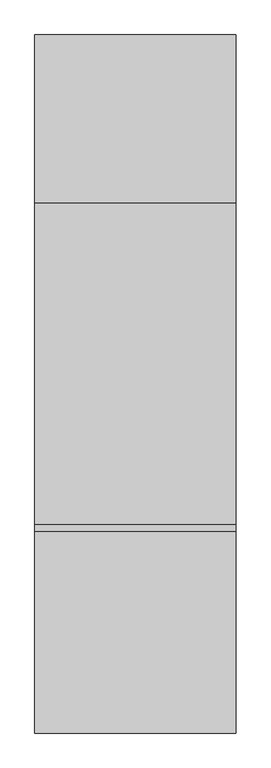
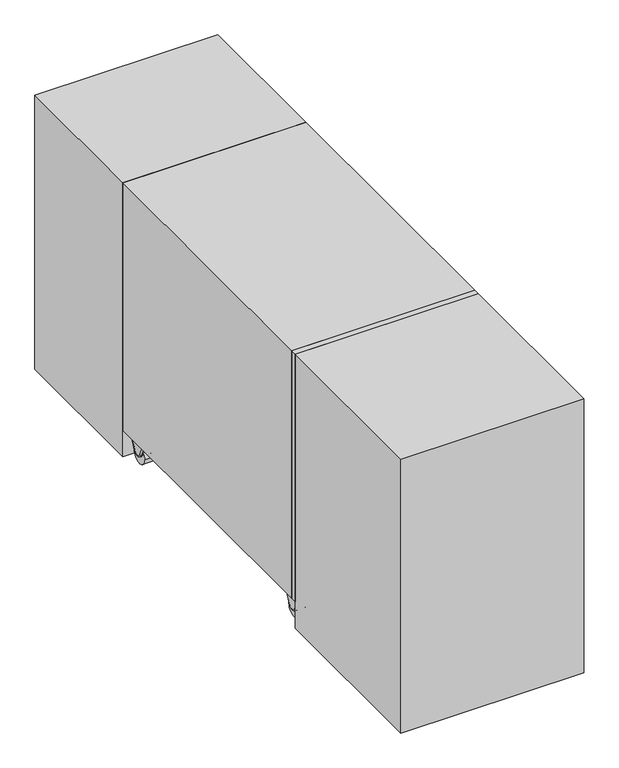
"""IFC4 building model written with IfcOpenShell, lengths in millimetres: proxy geometry, Трехфазный ИБП_ЛЕГИОН_СайберЭлектро : ЛЕГИОН-3Ф-60К."""

from ifc_helpers import new_model, si_unit, point, frame, origin, origin_with_axes, place, context, project, spatial, polyline, circle_curve, ellipse_curve, trimmed, outline, extrude, source, transform, mapped, element, save
from ifc_brep_helpers import plane_surface, cylinder_surface, revolved_surface, advanced_brep


def electrical_equipment_28520774(model_context):
    return source(origin(), model_context, "Body", "SolidModel", [
        advanced_brep(
        [(282.5584286, -22.026834, 73.0926887), (282.5584286, -31.2318826, 87.0), (282.5584286, -68.7681174, 87.0), (282.5584286, -77.973166, 73.0926887), (282.5584286, -63.8075728, 39.7206426), (282.5584286, -36.1924272, 39.7206426), (237.4415714, -31.2318826, 87.0), (237.4415714, -22.026834, 73.0926887), (237.4415714, -36.1924272, 39.7206426), (237.4415714, -63.8075728, 39.7206426), (237.4415714, -77.973166, 73.0926887), (237.4415714, -68.7681174, 87.0), (277.5584286, -31.2318826, 92.0), (242.4415641, -31.2318826, 92.0), (242.4415714, -68.7681174, 92.0), (277.5584286, -68.7681174, 92.0), (242.4415714, -82.5756902, 71.1390331), (277.5584286, -82.5756902, 71.1390331), (275.0, -73.1912444, 49.0306642), (275.0, -68.4100971, 37.7669869), (277.5584286, -68.4100971, 37.7669869), (242.4415714, -68.4100971, 37.7669869), (245.0, -68.4100971, 37.7669869), (245.0, -73.1912444, 49.0306642), (275.0, -31.5899029, 37.7669869), (277.5584286, -31.5899029, 37.7669869), (245.0, -31.5899029, 37.7669869), (242.4415714, -31.5899029, 37.7669869), (275.0, -26.8087556, 49.0306642), (245.0, -26.8087556, 49.0306642), (242.4415714, -17.4243098, 71.1390331), (277.5584286, -17.4243098, 71.1390331), (275.0, -80.0, 30.0), (275.0, -20.0, 30.0), (245.0, -20.0, 30.0), (245.0, -80.0, 30.0)],
        [
            (0, 1, circle_curve(frame((282.5584286, -31.2318826, 77.0), z_axis=(1.0, 0.0, 0.0), x_axis=(0.0, 0.0, 1.0)), 10.0)),
            (1, 2),
            (2, 3, circle_curve(frame((282.5584286, -68.7681174, 77.0), z_axis=(1.0, 0.0, 0.0), x_axis=(0.0, -0.9205048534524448, -0.3907311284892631)), 10.0)),
            (3, 4),
            (4, 5, circle_curve(frame((282.5584286, -50.0, 45.5816095), z_axis=(1.0, 0.0, 0.0), x_axis=(0.0, 0.9205048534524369, -0.3907311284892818)), 15.0)),
            (5, 0),
            (6, 7, circle_curve(frame((237.4415714, -31.2318826, 77.0), z_axis=(-1.0, 0.0, 0.0), x_axis=(0.0, 0.0, 1.0)), 10.0)),
            (7, 8),
            (8, 9, circle_curve(frame((237.4415714, -50.0, 45.5816095), z_axis=(-1.0, 0.0, 0.0), x_axis=(0.0, 0.9205048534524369, -0.3907311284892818)), 15.0)),
            (9, 10),
            (10, 11, circle_curve(frame((237.4415714, -68.7681174, 77.0), z_axis=(-1.0, 0.0, 0.0), x_axis=(0.0, -0.9205048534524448, -0.3907311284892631)), 10.0)),
            (11, 6),
            (12, 13),
            (13, 14),
            (14, 15),
            (15, 12),
            (14, 16, circle_curve(frame((242.4415714, -68.7681174, 77.0), z_axis=(1.0, 0.0, 0.0), x_axis=(0.0, 1.0, 0.0)), 15.0)),
            (16, 17),
            (17, 15, circle_curve(frame((277.5584286, -68.7681174, 77.0), z_axis=(-1.0, 0.0, 0.0), x_axis=(0.0, 1.0, 0.0)), 15.0)),
            (18, 19),
            (19, 20),
            (20, 17),
            (16, 21),
            (21, 22),
            (22, 23),
            (23, 18),
            (19, 24, circle_curve(frame((275.0, -50.0, 45.5816095), z_axis=(1.0, 0.0, 0.0), x_axis=(0.0, 1.0, 0.0)), 20.0)),
            (24, 25),
            (25, 20, circle_curve(frame((277.5584286, -50.0, 45.5816095), z_axis=(-1.0, 0.0, 0.0), x_axis=(0.0, 1.0, 0.0)), 20.0)),
            (26, 22, circle_curve(frame((245.0, -50.0, 45.5816095), z_axis=(-1.0, 0.0, 0.0), x_axis=(0.0, 1.0, 0.0)), 20.0)),
            (21, 27, circle_curve(frame((242.4415714, -50.0, 45.5816095), z_axis=(1.0, 0.0, 0.0), x_axis=(0.0, 1.0, 0.0)), 20.0)),
            (27, 26),
            (24, 28),
            (28, 29),
            (29, 26),
            (27, 30),
            (30, 31),
            (31, 25),
            (12, 31, circle_curve(frame((277.5584286, -31.2318826, 77.0), z_axis=(-1.0, 0.0, 0.0), x_axis=(0.0, 1.0, 0.0)), 15.0)),
            (30, 13, circle_curve(frame((242.4415714, -31.2318826, 77.0), z_axis=(1.0, 0.0, 0.0), x_axis=(0.0, 1.0, 0.0)), 15.0)),
            (32, 33, circle_curve(frame((275.0, -50.0, 30.0), z_axis=(1.0, 0.0, 0.0), x_axis=(0.0, -1.0, 0.0)), 30.0)),
            (33, 28, circle_curve(frame((275.0, -50.0, 30.0), z_axis=(1.0, 0.0, 0.0), x_axis=(0.0, -1.0, 0.0)), 30.0)),
            (18, 32, circle_curve(frame((275.0, -50.0, 30.0), z_axis=(1.0, 0.0, 0.0), x_axis=(0.0, -1.0, 0.0)), 30.0)),
            (34, 35, circle_curve(frame((245.0, -50.0, 30.0), z_axis=(-1.0, 0.0, 0.0), x_axis=(0.0, -1.0, 0.0)), 30.0)),
            (35, 23, circle_curve(frame((245.0, -50.0, 30.0), z_axis=(-1.0, 0.0, 0.0), x_axis=(0.0, -1.0, 0.0)), 30.0)),
            (29, 34, circle_curve(frame((245.0, -50.0, 30.0), z_axis=(-1.0, 0.0, 0.0), x_axis=(0.0, -1.0, 0.0)), 30.0)),
            (33, 34),
            (35, 32),
            (30, 7, circle_curve(frame((242.4415714, -22.026834, 73.0926887), z_axis=(0.0, 0.3907311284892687, 0.9205048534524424), x_axis=(-1.0, 0.0, 0.0)), 5.0)),
            (6, 13, circle_curve(frame((242.4415714, -31.2318826, 87.0), z_axis=(0.0, 1.0, 0.0), x_axis=(-1.0, 0.0, 0.0)), 5.0)),
            (0, 31, circle_curve(frame((277.5584286, -22.026834, 73.0926887), z_axis=(0.0, 0.3907311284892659, 0.9205048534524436), x_axis=(-1.0, 0.0, 0.0)), 5.0)),
            (12, 1, circle_curve(frame((277.5584286, -31.2318826, 87.0), z_axis=(0.0, 1.0, 0.0), x_axis=(-1.0, 0.0, 0.0)), 5.0)),
            (27, 8, circle_curve(frame((242.4415714, -36.1924272, 39.7206426), z_axis=(0.0, 0.3907311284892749, 0.9205048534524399), x_axis=(-1.0, 0.0, 0.0)), 5.0)),
            (5, 25, circle_curve(frame((277.5584286, -36.1924272, 39.7206426), z_axis=(0.0, 0.3907311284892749, 0.9205048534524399), x_axis=(-1.0, 0.0, 0.0)), 5.0)),
            (21, 9, circle_curve(frame((242.4415714, -63.8075728, 39.7206426), z_axis=(0.0, 0.39073112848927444, -0.9205048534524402), x_axis=(-1.0, 0.0, 0.0)), 5.0)),
            (4, 20, circle_curve(frame((277.5584286, -63.8075728, 39.7206426), z_axis=(0.0, 0.39073112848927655, -0.9205048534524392), x_axis=(-1.0, 0.0, 0.0)), 5.0)),
            (16, 10, circle_curve(frame((242.4415714, -77.973166, 73.0926887), z_axis=(0.0, 0.39073112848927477, -0.92050485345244), x_axis=(-1.0, 0.0, 0.0)), 5.0)),
            (3, 17, circle_curve(frame((277.5584286, -77.973166, 73.0926887), z_axis=(0.0, 0.39073112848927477, -0.92050485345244), x_axis=(-1.0, 0.0, 0.0)), 5.0)),
            (14, 11, circle_curve(frame((242.4415714, -68.7681174, 87.0), z_axis=(0.0, -1.0, 0.0), x_axis=(-1.0, 0.0, 0.0)), 5.0)),
            (2, 15, circle_curve(frame((277.5584286, -68.7681174, 87.0), z_axis=(0.0, -1.0, 0.0), x_axis=(-1.0, 0.0, 0.0)), 5.0)),
        ],
        [
            plane_surface(frame((282.5584286, -50.0, 92.0), z_axis=(1.0, 0.0, 0.0), x_axis=(0.0, -1.0, 0.0))),
            plane_surface(frame((237.4415714, -50.0, 92.0), z_axis=(-1.0, 0.0, 0.0), x_axis=(0.0, 1.0, 0.0))),
            plane_surface(frame((282.5584286, -31.2318826, 92.0), z_axis=(0.0, 0.0, 1.0), x_axis=(-1.0, 0.0, 0.0))),
            cylinder_surface(frame((237.4415714, -68.7681174, 77.0), z_axis=(1.0, 0.0, 0.0), x_axis=(0.0, 1.0, 0.0)), 15.0),
            plane_surface(frame((282.5584286, -82.5756902, 71.1390331), z_axis=(0.0, -0.9205048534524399, -0.39073112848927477), x_axis=(-1.0, 0.0, 0.0))),
            cylinder_surface(frame((237.4415714, -50.0, 45.5816095), z_axis=(1.0, 0.0, 0.0), x_axis=(0.0, 1.0, 0.0)), 20.0),
            plane_surface(frame((282.5584286, -31.5899029, 37.7669869), z_axis=(0.0, 0.9205048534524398, -0.3907311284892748), x_axis=(-1.0, 0.0, 0.0))),
            cylinder_surface(frame((237.4415714, -31.2318826, 77.0), z_axis=(1.0, 0.0, 0.0), x_axis=(0.0, 1.0, 0.0)), 15.0),
            plane_surface(frame((275.0, -80.0, 30.0), z_axis=(1.0, 0.0, 0.0), x_axis=(0.0, 0.0, -1.0))),
            plane_surface(frame((245.0, -80.0, 30.0), z_axis=(-1.0, 0.0, 0.0), x_axis=(0.0, 0.0, 1.0))),
            cylinder_surface(frame((245.0, -50.0, 30.0), z_axis=(1.0, 0.0, 0.0), x_axis=(0.0, -1.0, 0.0)), 30.0),
            revolved_surface(trimmed(ellipse_curve(frame((242.4415714, -31.2318826, 87.0), z_axis=(0.0, -1.0, 0.0), x_axis=(-1.0, 0.0, 0.0)), 5.0, 5.0), [point((242.4415714, -31.2318826, 92.0))], [point((237.4415714, -31.2318826, 87.0))], True, "CARTESIAN"), (237.4415714, -31.2318826, 77.0), (-1.0, 0.0, 0.0)),
            revolved_surface(trimmed(ellipse_curve(frame((277.5584286, -31.2318826, 87.0), z_axis=(0.0, -1.0, 0.0), x_axis=(-1.0, 0.0, 0.0)), 5.0, 5.0), [point((282.5584286, -31.2318826, 87.0))], [point((277.5584286, -31.2318826, 92.0))], True, "CARTESIAN"), (237.4415714, -31.2318826, 77.0), (-1.0, 0.0, 0.0)),
            cylinder_surface(frame((242.4415714, -22.026834, 73.0926887), z_axis=(0.0, -0.3907311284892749, -0.9205048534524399), x_axis=(-1.0, 0.0, 0.0)), 5.0),
            cylinder_surface(frame((277.5584286, -22.026834, 73.0926887), z_axis=(0.0, -0.3907311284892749, -0.9205048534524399), x_axis=(-1.0, 0.0, 0.0)), 5.0),
            revolved_surface(trimmed(ellipse_curve(frame((242.4415714, -36.1924272, 39.7206426), z_axis=(0.0, 0.39073112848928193, 0.9205048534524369), x_axis=(-1.0, 0.0, 0.0)), 5.0, 5.0), [point((242.4415714, -31.5899029, 37.7669869))], [point((237.4415714, -36.1924272, 39.7206426))], True, "CARTESIAN"), (237.4415714, -50.0, 45.5816095), (-1.0, 0.0, 0.0)),
            revolved_surface(trimmed(ellipse_curve(frame((277.5584286, -36.1924272, 39.7206426), z_axis=(0.0, 0.39073112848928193, 0.9205048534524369), x_axis=(-1.0, 0.0, 0.0)), 5.0, 5.0), [point((282.5584286, -36.1924272, 39.7206426))], [point((277.5584286, -31.5899029, 37.7669869))], True, "CARTESIAN"), (237.4415714, -50.0, 45.5816095), (-1.0, 0.0, 0.0)),
            cylinder_surface(frame((242.4415714, -63.8075728, 39.7206426), z_axis=(0.0, -0.39073112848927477, 0.92050485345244), x_axis=(-1.0, 0.0, 0.0)), 5.0),
            cylinder_surface(frame((277.5584286, -63.8075728, 39.7206426), z_axis=(0.0, -0.39073112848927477, 0.92050485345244), x_axis=(-1.0, 0.0, 0.0)), 5.0),
            revolved_surface(trimmed(ellipse_curve(frame((242.4415714, -77.973166, 73.0926887), z_axis=(0.0, 0.39073112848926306, -0.9205048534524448), x_axis=(-1.0, 0.0, 0.0)), 5.0, 5.0), [point((242.4415714, -82.5756902, 71.1390331))], [point((237.4415714, -77.973166, 73.0926887))], True, "CARTESIAN"), (237.4415714, -68.7681174, 77.0), (-1.0, 0.0, 0.0)),
            revolved_surface(trimmed(ellipse_curve(frame((277.5584286, -77.973166, 73.0926887), z_axis=(0.0, 0.39073112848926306, -0.9205048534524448), x_axis=(-1.0, 0.0, 0.0)), 5.0, 5.0), [point((282.5584286, -77.973166, 73.0926887))], [point((277.5584286, -82.5756902, 71.1390331))], True, "CARTESIAN"), (237.4415714, -68.7681174, 77.0), (-1.0, 0.0, 0.0)),
            cylinder_surface(frame((242.4415714, -68.7681174, 87.0), z_axis=(0.0, 1.0, 0.0), x_axis=(-1.0, 0.0, 0.0)), 5.0),
            cylinder_surface(frame((277.5584286, -68.7681174, 87.0), z_axis=(0.0, 1.0, 0.0), x_axis=(-1.0, 0.0, 0.0)), 5.0),
        ],
        [
            (0, [[1, 2, 3, 4, 5, 6]]),
            (1, [[7, 8, 9, 10, 11, 12]]),
            (2, [[13, 14, 15, 16]]),
            (3, [[-15, 17, 18, 19]]),
            (4, [[20, 21, 22, -18, 23, 24, 25, 26]]),
            (5, [[27, 28, 29, -21]]),
            (5, [[30, -24, 31, 32]]),
            (6, [[33, 34, 35, -32, 36, 37, 38, -28]]),
            (7, [[-13, 39, -37, 40]]),
            (8, [[41, 42, -33, -27, -20, 43]]),
            (9, [[44, 45, -25, -30, -35, 46]]),
            (10, [[47, -46, -34, -42]]),
            (10, [[48, -43, -26, -45]]),
            (10, [[-41, -48, -44, -47]]),
            (11, [[49, -7, 50, -40]]),
            (12, [[51, -39, 52, -1]]),
            (13, [[-49, -36, 53, -8]]),
            (14, [[-51, -6, 54, -38]]),
            (15, [[-53, -31, 55, -9]]),
            (16, [[-54, -5, 56, -29]]),
            (17, [[-55, -23, 57, -10]]),
            (18, [[-56, -4, 58, -22]]),
            (19, [[-57, -17, 59, -11]]),
            (20, [[-58, -3, 60, -19]]),
            (21, [[-50, -12, -59, -14]]),
            (22, [[-52, -16, -60, -2]]),
        ],
    ),
        advanced_brep(
        [(-237.4415714, -22.026834, 73.0926887), (-237.4415714, -31.2318826, 87.0), (-237.4415714, -68.7681174, 87.0), (-237.4415714, -77.973166, 73.0926887), (-237.4415714, -63.8075728, 39.7206426), (-237.4415714, -36.1924272, 39.7206426), (-282.5584286, -31.2318826, 87.0), (-282.5584286, -22.026834, 73.0926887), (-282.5584286, -36.1924272, 39.7206426), (-282.5584286, -63.8075728, 39.7206426), (-282.5584286, -77.973166, 73.0926887), (-282.5584286, -68.7681174, 87.0), (-242.4415714, -31.2318826, 92.0), (-277.5584359, -31.2318826, 92.0), (-277.5584286, -68.7681174, 92.0), (-242.4415714, -68.7681174, 92.0), (-277.5584286, -82.5756902, 71.1390331), (-242.4415714, -82.5756902, 71.1390331), (-245.0, -73.1912444, 49.0306642), (-245.0, -68.4100971, 37.7669869), (-242.4415714, -68.4100971, 37.7669869), (-277.5584286, -68.4100971, 37.7669869), (-275.0, -68.4100971, 37.7669869), (-275.0, -73.1912444, 49.0306642), (-245.0, -31.5899029, 37.7669869), (-242.4415714, -31.5899029, 37.7669869), (-275.0, -31.5899029, 37.7669869), (-277.5584286, -31.5899029, 37.7669869), (-245.0, -26.8087556, 49.0306642), (-275.0, -26.8087556, 49.0306642), (-277.5584286, -17.4243098, 71.1390331), (-242.4415714, -17.4243098, 71.1390331), (-245.0, -80.0, 30.0), (-245.0, -20.0, 30.0), (-275.0, -20.0, 30.0), (-275.0, -80.0, 30.0)],
        [
            (0, 1, circle_curve(frame((-237.4415714, -31.2318826, 77.0), z_axis=(1.0, 0.0, 0.0), x_axis=(0.0, 0.0, 1.0)), 10.0)),
            (1, 2),
            (2, 3, circle_curve(frame((-237.4415714, -68.7681174, 77.0), z_axis=(1.0, 0.0, 0.0), x_axis=(0.0, -0.9205048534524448, -0.3907311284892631)), 10.0)),
            (3, 4),
            (4, 5, circle_curve(frame((-237.4415714, -50.0, 45.5816095), z_axis=(1.0, 0.0, 0.0), x_axis=(0.0, 0.9205048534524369, -0.3907311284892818)), 15.0)),
            (5, 0),
            (6, 7, circle_curve(frame((-282.5584286, -31.2318826, 77.0), z_axis=(-1.0, 0.0, 0.0), x_axis=(0.0, 0.0, 1.0)), 10.0)),
            (7, 8),
            (8, 9, circle_curve(frame((-282.5584286, -50.0, 45.5816095), z_axis=(-1.0, 0.0, 0.0), x_axis=(0.0, 0.9205048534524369, -0.3907311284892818)), 15.0)),
            (9, 10),
            (10, 11, circle_curve(frame((-282.5584286, -68.7681174, 77.0), z_axis=(-1.0, 0.0, 0.0), x_axis=(0.0, -0.9205048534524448, -0.3907311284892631)), 10.0)),
            (11, 6),
            (12, 13),
            (13, 14),
            (14, 15),
            (15, 12),
            (14, 16, circle_curve(frame((-277.5584286, -68.7681174, 77.0), z_axis=(1.0, 0.0, 0.0), x_axis=(0.0, 1.0, 0.0)), 15.0)),
            (16, 17),
            (17, 15, circle_curve(frame((-242.4415714, -68.7681174, 77.0), z_axis=(-1.0, 0.0, 0.0), x_axis=(0.0, 1.0, 0.0)), 15.0)),
            (18, 19),
            (19, 20),
            (20, 17),
            (16, 21),
            (21, 22),
            (22, 23),
            (23, 18),
            (19, 24, circle_curve(frame((-245.0, -50.0, 45.5816095), z_axis=(1.0, 0.0, 0.0), x_axis=(0.0, 1.0, 0.0)), 20.0)),
            (24, 25),
            (25, 20, circle_curve(frame((-242.4415714, -50.0, 45.5816095), z_axis=(-1.0, 0.0, 0.0), x_axis=(0.0, 1.0, 0.0)), 20.0)),
            (26, 22, circle_curve(frame((-275.0, -50.0, 45.5816095), z_axis=(-1.0, 0.0, 0.0), x_axis=(0.0, 1.0, 0.0)), 20.0)),
            (21, 27, circle_curve(frame((-277.5584286, -50.0, 45.5816095), z_axis=(1.0, 0.0, 0.0), x_axis=(0.0, 1.0, 0.0)), 20.0)),
            (27, 26),
            (24, 28),
            (28, 29),
            (29, 26),
            (27, 30),
            (30, 31),
            (31, 25),
            (12, 31, circle_curve(frame((-242.4415714, -31.2318826, 77.0), z_axis=(-1.0, 0.0, 0.0), x_axis=(0.0, 1.0, 0.0)), 15.0)),
            (30, 13, circle_curve(frame((-277.5584286, -31.2318826, 77.0), z_axis=(1.0, 0.0, 0.0), x_axis=(0.0, 1.0, 0.0)), 15.0)),
            (32, 33, circle_curve(frame((-245.0, -50.0, 30.0), z_axis=(1.0, 0.0, 0.0), x_axis=(0.0, -1.0, 0.0)), 30.0)),
            (33, 28, circle_curve(frame((-245.0, -50.0, 30.0), z_axis=(1.0, 0.0, 0.0), x_axis=(0.0, -1.0, 0.0)), 30.0)),
            (18, 32, circle_curve(frame((-245.0, -50.0, 30.0), z_axis=(1.0, 0.0, 0.0), x_axis=(0.0, -1.0, 0.0)), 30.0)),
            (34, 35, circle_curve(frame((-275.0, -50.0, 30.0), z_axis=(-1.0, 0.0, 0.0), x_axis=(0.0, -1.0, 0.0)), 30.0)),
            (35, 23, circle_curve(frame((-275.0, -50.0, 30.0), z_axis=(-1.0, 0.0, 0.0), x_axis=(0.0, -1.0, 0.0)), 30.0)),
            (29, 34, circle_curve(frame((-275.0, -50.0, 30.0), z_axis=(-1.0, 0.0, 0.0), x_axis=(0.0, -1.0, 0.0)), 30.0)),
            (33, 34),
            (35, 32),
            (30, 7, circle_curve(frame((-277.5584286, -22.026834, 73.0926887), z_axis=(0.0, 0.3907311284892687, 0.9205048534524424), x_axis=(-1.0, 0.0, 0.0)), 5.0)),
            (6, 13, circle_curve(frame((-277.5584286, -31.2318826, 87.0), z_axis=(0.0, 1.0, 0.0), x_axis=(-1.0, 0.0, 0.0)), 5.0)),
            (0, 31, circle_curve(frame((-242.4415714, -22.026834, 73.0926887), z_axis=(0.0, 0.3907311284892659, 0.9205048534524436), x_axis=(-1.0, 0.0, 0.0)), 5.0)),
            (12, 1, circle_curve(frame((-242.4415714, -31.2318826, 87.0), z_axis=(0.0, 1.0, 0.0), x_axis=(-1.0, 0.0, 0.0)), 5.0)),
            (27, 8, circle_curve(frame((-277.5584286, -36.1924272, 39.7206426), z_axis=(0.0, 0.3907311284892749, 0.9205048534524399), x_axis=(-1.0, 0.0, 0.0)), 5.0)),
            (5, 25, circle_curve(frame((-242.4415714, -36.1924272, 39.7206426), z_axis=(0.0, 0.3907311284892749, 0.9205048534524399), x_axis=(-1.0, 0.0, 0.0)), 5.0)),
            (21, 9, circle_curve(frame((-277.5584286, -63.8075728, 39.7206426), z_axis=(0.0, 0.39073112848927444, -0.9205048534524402), x_axis=(-1.0, 0.0, 0.0)), 5.0)),
            (4, 20, circle_curve(frame((-242.4415714, -63.8075728, 39.7206426), z_axis=(0.0, 0.39073112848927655, -0.9205048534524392), x_axis=(-1.0, 0.0, 0.0)), 5.0)),
            (16, 10, circle_curve(frame((-277.5584286, -77.973166, 73.0926887), z_axis=(0.0, 0.39073112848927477, -0.92050485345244), x_axis=(-1.0, 0.0, 0.0)), 5.0)),
            (3, 17, circle_curve(frame((-242.4415714, -77.973166, 73.0926887), z_axis=(0.0, 0.39073112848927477, -0.92050485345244), x_axis=(-1.0, 0.0, 0.0)), 5.0)),
            (14, 11, circle_curve(frame((-277.5584286, -68.7681174, 87.0), z_axis=(0.0, -1.0, 0.0), x_axis=(-1.0, 0.0, 0.0)), 5.0)),
            (2, 15, circle_curve(frame((-242.4415714, -68.7681174, 87.0), z_axis=(0.0, -1.0, 0.0), x_axis=(-1.0, 0.0, 0.0)), 5.0)),
        ],
        [
            plane_surface(frame((-237.4415714, -50.0, 92.0), z_axis=(1.0, 0.0, 0.0), x_axis=(0.0, -1.0, 0.0))),
            plane_surface(frame((-282.5584286, -50.0, 92.0), z_axis=(-1.0, 0.0, 0.0), x_axis=(0.0, 1.0, 0.0))),
            plane_surface(frame((-237.4415714, -31.2318826, 92.0), z_axis=(0.0, 0.0, 1.0), x_axis=(-1.0, 0.0, 0.0))),
            cylinder_surface(frame((-282.5584286, -68.7681174, 77.0), z_axis=(1.0, 0.0, 0.0), x_axis=(0.0, 1.0, 0.0)), 15.0),
            plane_surface(frame((-237.4415714, -82.5756902, 71.1390331), z_axis=(0.0, -0.9205048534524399, -0.39073112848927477), x_axis=(-1.0, 0.0, 0.0))),
            cylinder_surface(frame((-282.5584286, -50.0, 45.5816095), z_axis=(1.0, 0.0, 0.0), x_axis=(0.0, 1.0, 0.0)), 20.0),
            plane_surface(frame((-237.4415714, -31.5899029, 37.7669869), z_axis=(0.0, 0.9205048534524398, -0.3907311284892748), x_axis=(-1.0, 0.0, 0.0))),
            cylinder_surface(frame((-282.5584286, -31.2318826, 77.0), z_axis=(1.0, 0.0, 0.0), x_axis=(0.0, 1.0, 0.0)), 15.0),
            plane_surface(frame((-245.0, -80.0, 30.0), z_axis=(1.0, 0.0, 0.0), x_axis=(0.0, 0.0, -1.0))),
            plane_surface(frame((-275.0, -80.0, 30.0), z_axis=(-1.0, 0.0, 0.0), x_axis=(0.0, 0.0, 1.0))),
            cylinder_surface(frame((-275.0, -50.0, 30.0), z_axis=(1.0, 0.0, 0.0), x_axis=(0.0, -1.0, 0.0)), 30.0),
            revolved_surface(trimmed(ellipse_curve(frame((-277.5584286, -31.2318826, 87.0), z_axis=(0.0, -1.0, 0.0), x_axis=(-1.0, 0.0, 0.0)), 5.0, 5.0), [point((-277.5584286, -31.2318826, 92.0))], [point((-282.5584286, -31.2318826, 87.0))], True, "CARTESIAN"), (-282.5584286, -31.2318826, 77.0), (-1.0, 0.0, 0.0)),
            revolved_surface(trimmed(ellipse_curve(frame((-242.4415714, -31.2318826, 87.0), z_axis=(0.0, -1.0, 0.0), x_axis=(-1.0, 0.0, 0.0)), 5.0, 5.0), [point((-237.4415714, -31.2318826, 87.0))], [point((-242.4415714, -31.2318826, 92.0))], True, "CARTESIAN"), (-282.5584286, -31.2318826, 77.0), (-1.0, 0.0, 0.0)),
            cylinder_surface(frame((-277.5584286, -22.026834, 73.0926887), z_axis=(0.0, -0.3907311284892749, -0.9205048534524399), x_axis=(-1.0, 0.0, 0.0)), 5.0),
            cylinder_surface(frame((-242.4415714, -22.026834, 73.0926887), z_axis=(0.0, -0.3907311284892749, -0.9205048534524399), x_axis=(-1.0, 0.0, 0.0)), 5.0),
            revolved_surface(trimmed(ellipse_curve(frame((-277.5584286, -36.1924272, 39.7206426), z_axis=(0.0, 0.39073112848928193, 0.9205048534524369), x_axis=(-1.0, 0.0, 0.0)), 5.0, 5.0), [point((-277.5584286, -31.5899029, 37.7669869))], [point((-282.5584286, -36.1924272, 39.7206426))], True, "CARTESIAN"), (-282.5584286, -50.0, 45.5816095), (-1.0, 0.0, 0.0)),
            revolved_surface(trimmed(ellipse_curve(frame((-242.4415714, -36.1924272, 39.7206426), z_axis=(0.0, 0.39073112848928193, 0.9205048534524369), x_axis=(-1.0, 0.0, 0.0)), 5.0, 5.0), [point((-237.4415714, -36.1924272, 39.7206426))], [point((-242.4415714, -31.5899029, 37.7669869))], True, "CARTESIAN"), (-282.5584286, -50.0, 45.5816095), (-1.0, 0.0, 0.0)),
            cylinder_surface(frame((-277.5584286, -63.8075728, 39.7206426), z_axis=(0.0, -0.39073112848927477, 0.92050485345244), x_axis=(-1.0, 0.0, 0.0)), 5.0),
            cylinder_surface(frame((-242.4415714, -63.8075728, 39.7206426), z_axis=(0.0, -0.39073112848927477, 0.92050485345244), x_axis=(-1.0, 0.0, 0.0)), 5.0),
            revolved_surface(trimmed(ellipse_curve(frame((-277.5584286, -77.973166, 73.0926887), z_axis=(0.0, 0.39073112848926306, -0.9205048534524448), x_axis=(-1.0, 0.0, 0.0)), 5.0, 5.0), [point((-277.5584286, -82.5756902, 71.1390331))], [point((-282.5584286, -77.973166, 73.0926887))], True, "CARTESIAN"), (-282.5584286, -68.7681174, 77.0), (-1.0, 0.0, 0.0)),
            revolved_surface(trimmed(ellipse_curve(frame((-242.4415714, -77.973166, 73.0926887), z_axis=(0.0, 0.39073112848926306, -0.9205048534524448), x_axis=(-1.0, 0.0, 0.0)), 5.0, 5.0), [point((-237.4415714, -77.973166, 73.0926887))], [point((-242.4415714, -82.5756902, 71.1390331))], True, "CARTESIAN"), (-282.5584286, -68.7681174, 77.0), (-1.0, 0.0, 0.0)),
            cylinder_surface(frame((-277.5584286, -68.7681174, 87.0), z_axis=(0.0, 1.0, 0.0), x_axis=(-1.0, 0.0, 0.0)), 5.0),
            cylinder_surface(frame((-242.4415714, -68.7681174, 87.0), z_axis=(0.0, 1.0, 0.0), x_axis=(-1.0, 0.0, 0.0)), 5.0),
        ],
        [
            (0, [[1, 2, 3, 4, 5, 6]]),
            (1, [[7, 8, 9, 10, 11, 12]]),
            (2, [[13, 14, 15, 16]]),
            (3, [[-15, 17, 18, 19]]),
            (4, [[20, 21, 22, -18, 23, 24, 25, 26]]),
            (5, [[27, 28, 29, -21]]),
            (5, [[30, -24, 31, 32]]),
            (6, [[33, 34, 35, -32, 36, 37, 38, -28]]),
            (7, [[-13, 39, -37, 40]]),
            (8, [[41, 42, -33, -27, -20, 43]]),
            (9, [[44, 45, -25, -30, -35, 46]]),
            (10, [[47, -46, -34, -42]]),
            (10, [[48, -43, -26, -45]]),
            (10, [[-41, -48, -44, -47]]),
            (11, [[49, -7, 50, -40]]),
            (12, [[51, -39, 52, -1]]),
            (13, [[-49, -36, 53, -8]]),
            (14, [[-51, -6, 54, -38]]),
            (15, [[-53, -31, 55, -9]]),
            (16, [[-54, -5, 56, -29]]),
            (17, [[-55, -23, 57, -10]]),
            (18, [[-56, -4, 58, -22]]),
            (19, [[-57, -17, 59, -11]]),
            (20, [[-58, -3, 60, -19]]),
            (21, [[-50, -12, -59, -14]]),
            (22, [[-52, -16, -60, -2]]),
        ],
    ),
        advanced_brep(
        [(282.5584286, -902.026834, 73.0926887), (282.5584286, -911.2318826, 87.0), (282.5584286, -948.7681174, 87.0), (282.5584286, -957.973166, 73.0926887), (282.5584286, -943.8075728, 39.7206426), (282.5584286, -916.1924272, 39.7206426), (237.4415714, -911.2318826, 87.0), (237.4415714, -902.026834, 73.0926887), (237.4415714, -916.1924272, 39.7206426), (237.4415714, -943.8075728, 39.7206426), (237.4415714, -957.973166, 73.0926887), (237.4415714, -948.7681174, 87.0), (277.5584286, -911.2318826, 92.0), (242.4415641, -911.2318826, 92.0), (242.4415714, -948.7681174, 92.0), (277.5584286, -948.7681174, 92.0), (242.4415714, -962.5756902, 71.1390331), (277.5584286, -962.5756902, 71.1390331), (275.0, -953.1912444, 49.0306642), (275.0, -948.4100971, 37.7669869), (277.5584286, -948.4100971, 37.7669869), (242.4415714, -948.4100971, 37.7669869), (245.0, -948.4100971, 37.7669869), (245.0, -953.1912444, 49.0306642), (275.0, -911.5899029, 37.7669869), (277.5584286, -911.5899029, 37.7669869), (245.0, -911.5899029, 37.7669869), (242.4415714, -911.5899029, 37.7669869), (275.0, -906.8087556, 49.0306642), (245.0, -906.8087556, 49.0306642), (242.4415714, -897.4243098, 71.1390331), (277.5584286, -897.4243098, 71.1390331), (275.0, -960.0, 30.0), (275.0, -900.0, 30.0), (245.0, -900.0, 30.0), (245.0, -960.0, 30.0)],
        [
            (0, 1, circle_curve(frame((282.5584286, -911.2318826, 77.0), z_axis=(1.0, 0.0, 0.0), x_axis=(0.0, 0.0, 1.0)), 10.0)),
            (1, 2),
            (2, 3, circle_curve(frame((282.5584286, -948.7681174, 77.0), z_axis=(1.0, 0.0, 0.0), x_axis=(0.0, -0.9205048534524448, -0.3907311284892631)), 10.0)),
            (3, 4),
            (4, 5, circle_curve(frame((282.5584286, -930.0, 45.5816095), z_axis=(1.0, 0.0, 0.0), x_axis=(0.0, 0.9205048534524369, -0.3907311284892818)), 15.0)),
            (5, 0),
            (6, 7, circle_curve(frame((237.4415714, -911.2318826, 77.0), z_axis=(-1.0, 0.0, 0.0), x_axis=(0.0, 0.0, 1.0)), 10.0)),
            (7, 8),
            (8, 9, circle_curve(frame((237.4415714, -930.0, 45.5816095), z_axis=(-1.0, 0.0, 0.0), x_axis=(0.0, 0.9205048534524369, -0.3907311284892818)), 15.0)),
            (9, 10),
            (10, 11, circle_curve(frame((237.4415714, -948.7681174, 77.0), z_axis=(-1.0, 0.0, 0.0), x_axis=(0.0, -0.9205048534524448, -0.3907311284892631)), 10.0)),
            (11, 6),
            (12, 13),
            (13, 14),
            (14, 15),
            (15, 12),
            (14, 16, circle_curve(frame((242.4415714, -948.7681174, 77.0), z_axis=(1.0, 0.0, 0.0), x_axis=(0.0, 1.0, 0.0)), 15.0)),
            (16, 17),
            (17, 15, circle_curve(frame((277.5584286, -948.7681174, 77.0), z_axis=(-1.0, 0.0, 0.0), x_axis=(0.0, 1.0, 0.0)), 15.0)),
            (18, 19),
            (19, 20),
            (20, 17),
            (16, 21),
            (21, 22),
            (22, 23),
            (23, 18),
            (19, 24, circle_curve(frame((275.0, -930.0, 45.5816095), z_axis=(1.0, 0.0, 0.0), x_axis=(0.0, 1.0, 0.0)), 20.0)),
            (24, 25),
            (25, 20, circle_curve(frame((277.5584286, -930.0, 45.5816095), z_axis=(-1.0, 0.0, 0.0), x_axis=(0.0, 1.0, 0.0)), 20.0)),
            (26, 22, circle_curve(frame((245.0, -930.0, 45.5816095), z_axis=(-1.0, 0.0, 0.0), x_axis=(0.0, 1.0, 0.0)), 20.0)),
            (21, 27, circle_curve(frame((242.4415714, -930.0, 45.5816095), z_axis=(1.0, 0.0, 0.0), x_axis=(0.0, 1.0, 0.0)), 20.0)),
            (27, 26),
            (24, 28),
            (28, 29),
            (29, 26),
            (27, 30),
            (30, 31),
            (31, 25),
            (12, 31, circle_curve(frame((277.5584286, -911.2318826, 77.0), z_axis=(-1.0, 0.0, 0.0), x_axis=(0.0, 1.0, 0.0)), 15.0)),
            (30, 13, circle_curve(frame((242.4415714, -911.2318826, 77.0), z_axis=(1.0, 0.0, 0.0), x_axis=(0.0, 1.0, 0.0)), 15.0)),
            (32, 33, circle_curve(frame((275.0, -930.0, 30.0), z_axis=(1.0, 0.0, 0.0), x_axis=(0.0, -1.0, 0.0)), 30.0)),
            (33, 28, circle_curve(frame((275.0, -930.0, 30.0), z_axis=(1.0, 0.0, 0.0), x_axis=(0.0, -1.0, 0.0)), 30.0)),
            (18, 32, circle_curve(frame((275.0, -930.0, 30.0), z_axis=(1.0, 0.0, 0.0), x_axis=(0.0, -1.0, 0.0)), 30.0)),
            (34, 35, circle_curve(frame((245.0, -930.0, 30.0), z_axis=(-1.0, 0.0, 0.0), x_axis=(0.0, -1.0, 0.0)), 30.0)),
            (35, 23, circle_curve(frame((245.0, -930.0, 30.0), z_axis=(-1.0, 0.0, 0.0), x_axis=(0.0, -1.0, 0.0)), 30.0)),
            (29, 34, circle_curve(frame((245.0, -930.0, 30.0), z_axis=(-1.0, 0.0, 0.0), x_axis=(0.0, -1.0, 0.0)), 30.0)),
            (33, 34),
            (35, 32),
            (30, 7, circle_curve(frame((242.4415714, -902.026834, 73.0926887), z_axis=(0.0, 0.3907311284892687, 0.9205048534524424), x_axis=(-1.0, 0.0, 0.0)), 5.0)),
            (6, 13, circle_curve(frame((242.4415714, -911.2318826, 87.0), z_axis=(0.0, 1.0, 0.0), x_axis=(-1.0, 0.0, 0.0)), 5.0)),
            (0, 31, circle_curve(frame((277.5584286, -902.026834, 73.0926887), z_axis=(0.0, 0.3907311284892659, 0.9205048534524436), x_axis=(-1.0, 0.0, 0.0)), 5.0)),
            (12, 1, circle_curve(frame((277.5584286, -911.2318826, 87.0), z_axis=(0.0, 1.0, 0.0), x_axis=(-1.0, 0.0, 0.0)), 5.0)),
            (27, 8, circle_curve(frame((242.4415714, -916.1924272, 39.7206426), z_axis=(0.0, 0.3907311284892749, 0.9205048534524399), x_axis=(-1.0, 0.0, 0.0)), 5.0)),
            (5, 25, circle_curve(frame((277.5584286, -916.1924272, 39.7206426), z_axis=(0.0, 0.3907311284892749, 0.9205048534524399), x_axis=(-1.0, 0.0, 0.0)), 5.0)),
            (21, 9, circle_curve(frame((242.4415714, -943.8075728, 39.7206426), z_axis=(0.0, 0.39073112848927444, -0.9205048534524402), x_axis=(-1.0, 0.0, 0.0)), 5.0)),
            (4, 20, circle_curve(frame((277.5584286, -943.8075728, 39.7206426), z_axis=(0.0, 0.39073112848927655, -0.9205048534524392), x_axis=(-1.0, 0.0, 0.0)), 5.0)),
            (16, 10, circle_curve(frame((242.4415714, -957.973166, 73.0926887), z_axis=(0.0, 0.39073112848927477, -0.92050485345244), x_axis=(-1.0, 0.0, 0.0)), 5.0)),
            (3, 17, circle_curve(frame((277.5584286, -957.973166, 73.0926887), z_axis=(0.0, 0.39073112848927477, -0.92050485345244), x_axis=(-1.0, 0.0, 0.0)), 5.0)),
            (14, 11, circle_curve(frame((242.4415714, -948.7681174, 87.0), z_axis=(0.0, -1.0, 0.0), x_axis=(-1.0, 0.0, 0.0)), 5.0)),
            (2, 15, circle_curve(frame((277.5584286, -948.7681174, 87.0), z_axis=(0.0, -1.0, 0.0), x_axis=(-1.0, 0.0, 0.0)), 5.0)),
        ],
        [
            plane_surface(frame((282.5584286, -930.0, 92.0), z_axis=(1.0, 0.0, 0.0), x_axis=(0.0, -1.0, 0.0))),
            plane_surface(frame((237.4415714, -930.0, 92.0), z_axis=(-1.0, 0.0, 0.0), x_axis=(0.0, 1.0, 0.0))),
            plane_surface(frame((282.5584286, -911.2318826, 92.0), z_axis=(0.0, 0.0, 1.0), x_axis=(-1.0, 0.0, 0.0))),
            cylinder_surface(frame((237.4415714, -948.7681174, 77.0), z_axis=(1.0, 0.0, 0.0), x_axis=(0.0, 1.0, 0.0)), 15.0),
            plane_surface(frame((282.5584286, -962.5756902, 71.1390331), z_axis=(0.0, -0.9205048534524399, -0.39073112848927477), x_axis=(-1.0, 0.0, 0.0))),
            cylinder_surface(frame((237.4415714, -930.0, 45.5816095), z_axis=(1.0, 0.0, 0.0), x_axis=(0.0, 1.0, 0.0)), 20.0),
            plane_surface(frame((282.5584286, -911.5899029, 37.7669869), z_axis=(0.0, 0.9205048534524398, -0.3907311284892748), x_axis=(-1.0, 0.0, 0.0))),
            cylinder_surface(frame((237.4415714, -911.2318826, 77.0), z_axis=(1.0, 0.0, 0.0), x_axis=(0.0, 1.0, 0.0)), 15.0),
            plane_surface(frame((275.0, -960.0, 30.0), z_axis=(1.0, 0.0, 0.0), x_axis=(0.0, 0.0, -1.0))),
            plane_surface(frame((245.0, -960.0, 30.0), z_axis=(-1.0, 0.0, 0.0), x_axis=(0.0, 0.0, 1.0))),
            cylinder_surface(frame((245.0, -930.0, 30.0), z_axis=(1.0, 0.0, 0.0), x_axis=(0.0, -1.0, 0.0)), 30.0),
            revolved_surface(trimmed(ellipse_curve(frame((242.4415714, -911.2318826, 87.0), z_axis=(0.0, -1.0, 0.0), x_axis=(-1.0, 0.0, 0.0)), 5.0, 5.0), [point((242.4415714, -911.2318826, 92.0))], [point((237.4415714, -911.2318826, 87.0))], True, "CARTESIAN"), (237.4415714, -911.2318826, 77.0), (-1.0, 0.0, 0.0)),
            revolved_surface(trimmed(ellipse_curve(frame((277.5584286, -911.2318826, 87.0), z_axis=(0.0, -1.0, 0.0), x_axis=(-1.0, 0.0, 0.0)), 5.0, 5.0), [point((282.5584286, -911.2318826, 87.0))], [point((277.5584286, -911.2318826, 92.0))], True, "CARTESIAN"), (237.4415714, -911.2318826, 77.0), (-1.0, 0.0, 0.0)),
            cylinder_surface(frame((242.4415714, -902.026834, 73.0926887), z_axis=(0.0, -0.3907311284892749, -0.9205048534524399), x_axis=(-1.0, 0.0, 0.0)), 5.0),
            cylinder_surface(frame((277.5584286, -902.026834, 73.0926887), z_axis=(0.0, -0.3907311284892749, -0.9205048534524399), x_axis=(-1.0, 0.0, 0.0)), 5.0),
            revolved_surface(trimmed(ellipse_curve(frame((242.4415714, -916.1924272, 39.7206426), z_axis=(0.0, 0.39073112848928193, 0.9205048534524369), x_axis=(-1.0, 0.0, 0.0)), 5.0, 5.0), [point((242.4415714, -911.5899029, 37.7669869))], [point((237.4415714, -916.1924272, 39.7206426))], True, "CARTESIAN"), (237.4415714, -930.0, 45.5816095), (-1.0, 0.0, 0.0)),
            revolved_surface(trimmed(ellipse_curve(frame((277.5584286, -916.1924272, 39.7206426), z_axis=(0.0, 0.39073112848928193, 0.9205048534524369), x_axis=(-1.0, 0.0, 0.0)), 5.0, 5.0), [point((282.5584286, -916.1924272, 39.7206426))], [point((277.5584286, -911.5899029, 37.7669869))], True, "CARTESIAN"), (237.4415714, -930.0, 45.5816095), (-1.0, 0.0, 0.0)),
            cylinder_surface(frame((242.4415714, -943.8075728, 39.7206426), z_axis=(0.0, -0.39073112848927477, 0.92050485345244), x_axis=(-1.0, 0.0, 0.0)), 5.0),
            cylinder_surface(frame((277.5584286, -943.8075728, 39.7206426), z_axis=(0.0, -0.39073112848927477, 0.92050485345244), x_axis=(-1.0, 0.0, 0.0)), 5.0),
            revolved_surface(trimmed(ellipse_curve(frame((242.4415714, -957.973166, 73.0926887), z_axis=(0.0, 0.39073112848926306, -0.9205048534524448), x_axis=(-1.0, 0.0, 0.0)), 5.0, 5.0), [point((242.4415714, -962.5756902, 71.1390331))], [point((237.4415714, -957.973166, 73.0926887))], True, "CARTESIAN"), (237.4415714, -948.7681174, 77.0), (-1.0, 0.0, 0.0)),
            revolved_surface(trimmed(ellipse_curve(frame((277.5584286, -957.973166, 73.0926887), z_axis=(0.0, 0.39073112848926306, -0.9205048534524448), x_axis=(-1.0, 0.0, 0.0)), 5.0, 5.0), [point((282.5584286, -957.973166, 73.0926887))], [point((277.5584286, -962.5756902, 71.1390331))], True, "CARTESIAN"), (237.4415714, -948.7681174, 77.0), (-1.0, 0.0, 0.0)),
            cylinder_surface(frame((242.4415714, -948.7681174, 87.0), z_axis=(0.0, 1.0, 0.0), x_axis=(-1.0, 0.0, 0.0)), 5.0),
            cylinder_surface(frame((277.5584286, -948.7681174, 87.0), z_axis=(0.0, 1.0, 0.0), x_axis=(-1.0, 0.0, 0.0)), 5.0),
        ],
        [
            (0, [[1, 2, 3, 4, 5, 6]]),
            (1, [[7, 8, 9, 10, 11, 12]]),
            (2, [[13, 14, 15, 16]]),
            (3, [[-15, 17, 18, 19]]),
            (4, [[20, 21, 22, -18, 23, 24, 25, 26]]),
            (5, [[27, 28, 29, -21]]),
            (5, [[30, -24, 31, 32]]),
            (6, [[33, 34, 35, -32, 36, 37, 38, -28]]),
            (7, [[-13, 39, -37, 40]]),
            (8, [[41, 42, -33, -27, -20, 43]]),
            (9, [[44, 45, -25, -30, -35, 46]]),
            (10, [[47, -46, -34, -42]]),
            (10, [[48, -43, -26, -45]]),
            (10, [[-41, -48, -44, -47]]),
            (11, [[49, -7, 50, -40]]),
            (12, [[51, -39, 52, -1]]),
            (13, [[-49, -36, 53, -8]]),
            (14, [[-51, -6, 54, -38]]),
            (15, [[-53, -31, 55, -9]]),
            (16, [[-54, -5, 56, -29]]),
            (17, [[-55, -23, 57, -10]]),
            (18, [[-56, -4, 58, -22]]),
            (19, [[-57, -17, 59, -11]]),
            (20, [[-58, -3, 60, -19]]),
            (21, [[-50, -12, -59, -14]]),
            (22, [[-52, -16, -60, -2]]),
        ],
    ),
        advanced_brep(
        [(-237.4415714, -902.026834, 73.0926887), (-237.4415714, -911.2318826, 87.0), (-237.4415714, -948.7681174, 87.0), (-237.4415714, -957.973166, 73.0926887), (-237.4415714, -943.8075728, 39.7206426), (-237.4415714, -916.1924272, 39.7206426), (-282.5584286, -911.2318826, 87.0), (-282.5584286, -902.026834, 73.0926887), (-282.5584286, -916.1924272, 39.7206426), (-282.5584286, -943.8075728, 39.7206426), (-282.5584286, -957.973166, 73.0926887), (-282.5584286, -948.7681174, 87.0), (-242.4415714, -911.2318826, 92.0), (-277.5584359, -911.2318826, 92.0), (-277.5584286, -948.7681174, 92.0), (-242.4415714, -948.7681174, 92.0), (-277.5584286, -962.5756902, 71.1390331), (-242.4415714, -962.5756902, 71.1390331), (-245.0, -953.1912444, 49.0306642), (-245.0, -948.4100971, 37.7669869), (-242.4415714, -948.4100971, 37.7669869), (-277.5584286, -948.4100971, 37.7669869), (-275.0, -948.4100971, 37.7669869), (-275.0, -953.1912444, 49.0306642), (-245.0, -911.5899029, 37.7669869), (-242.4415714, -911.5899029, 37.7669869), (-275.0, -911.5899029, 37.7669869), (-277.5584286, -911.5899029, 37.7669869), (-245.0, -906.8087556, 49.0306642), (-275.0, -906.8087556, 49.0306642), (-277.5584286, -897.4243098, 71.1390331), (-242.4415714, -897.4243098, 71.1390331), (-245.0, -960.0, 30.0), (-245.0, -900.0, 30.0), (-275.0, -900.0, 30.0), (-275.0, -960.0, 30.0)],
        [
            (0, 1, circle_curve(frame((-237.4415714, -911.2318826, 77.0), z_axis=(1.0, 0.0, 0.0), x_axis=(0.0, 0.0, 1.0)), 10.0)),
            (1, 2),
            (2, 3, circle_curve(frame((-237.4415714, -948.7681174, 77.0), z_axis=(1.0, 0.0, 0.0), x_axis=(0.0, -0.9205048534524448, -0.3907311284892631)), 10.0)),
            (3, 4),
            (4, 5, circle_curve(frame((-237.4415714, -930.0, 45.5816095), z_axis=(1.0, 0.0, 0.0), x_axis=(0.0, 0.9205048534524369, -0.3907311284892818)), 15.0)),
            (5, 0),
            (6, 7, circle_curve(frame((-282.5584286, -911.2318826, 77.0), z_axis=(-1.0, 0.0, 0.0), x_axis=(0.0, 0.0, 1.0)), 10.0)),
            (7, 8),
            (8, 9, circle_curve(frame((-282.5584286, -930.0, 45.5816095), z_axis=(-1.0, 0.0, 0.0), x_axis=(0.0, 0.9205048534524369, -0.3907311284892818)), 15.0)),
            (9, 10),
            (10, 11, circle_curve(frame((-282.5584286, -948.7681174, 77.0), z_axis=(-1.0, 0.0, 0.0), x_axis=(0.0, -0.9205048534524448, -0.3907311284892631)), 10.0)),
            (11, 6),
            (12, 13),
            (13, 14),
            (14, 15),
            (15, 12),
            (14, 16, circle_curve(frame((-277.5584286, -948.7681174, 77.0), z_axis=(1.0, 0.0, 0.0), x_axis=(0.0, 1.0, 0.0)), 15.0)),
            (16, 17),
            (17, 15, circle_curve(frame((-242.4415714, -948.7681174, 77.0), z_axis=(-1.0, 0.0, 0.0), x_axis=(0.0, 1.0, 0.0)), 15.0)),
            (18, 19),
            (19, 20),
            (20, 17),
            (16, 21),
            (21, 22),
            (22, 23),
            (23, 18),
            (19, 24, circle_curve(frame((-245.0, -930.0, 45.5816095), z_axis=(1.0, 0.0, 0.0), x_axis=(0.0, 1.0, 0.0)), 20.0)),
            (24, 25),
            (25, 20, circle_curve(frame((-242.4415714, -930.0, 45.5816095), z_axis=(-1.0, 0.0, 0.0), x_axis=(0.0, 1.0, 0.0)), 20.0)),
            (26, 22, circle_curve(frame((-275.0, -930.0, 45.5816095), z_axis=(-1.0, 0.0, 0.0), x_axis=(0.0, 1.0, 0.0)), 20.0)),
            (21, 27, circle_curve(frame((-277.5584286, -930.0, 45.5816095), z_axis=(1.0, 0.0, 0.0), x_axis=(0.0, 1.0, 0.0)), 20.0)),
            (27, 26),
            (24, 28),
            (28, 29),
            (29, 26),
            (27, 30),
            (30, 31),
            (31, 25),
            (12, 31, circle_curve(frame((-242.4415714, -911.2318826, 77.0), z_axis=(-1.0, 0.0, 0.0), x_axis=(0.0, 1.0, 0.0)), 15.0)),
            (30, 13, circle_curve(frame((-277.5584286, -911.2318826, 77.0), z_axis=(1.0, 0.0, 0.0), x_axis=(0.0, 1.0, 0.0)), 15.0)),
            (32, 33, circle_curve(frame((-245.0, -930.0, 30.0), z_axis=(1.0, 0.0, 0.0), x_axis=(0.0, -1.0, 0.0)), 30.0)),
            (33, 28, circle_curve(frame((-245.0, -930.0, 30.0), z_axis=(1.0, 0.0, 0.0), x_axis=(0.0, -1.0, 0.0)), 30.0)),
            (18, 32, circle_curve(frame((-245.0, -930.0, 30.0), z_axis=(1.0, 0.0, 0.0), x_axis=(0.0, -1.0, 0.0)), 30.0)),
            (34, 35, circle_curve(frame((-275.0, -930.0, 30.0), z_axis=(-1.0, 0.0, 0.0), x_axis=(0.0, -1.0, 0.0)), 30.0)),
            (35, 23, circle_curve(frame((-275.0, -930.0, 30.0), z_axis=(-1.0, 0.0, 0.0), x_axis=(0.0, -1.0, 0.0)), 30.0)),
            (29, 34, circle_curve(frame((-275.0, -930.0, 30.0), z_axis=(-1.0, 0.0, 0.0), x_axis=(0.0, -1.0, 0.0)), 30.0)),
            (33, 34),
            (35, 32),
            (30, 7, circle_curve(frame((-277.5584286, -902.026834, 73.0926887), z_axis=(0.0, 0.3907311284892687, 0.9205048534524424), x_axis=(-1.0, 0.0, 0.0)), 5.0)),
            (6, 13, circle_curve(frame((-277.5584286, -911.2318826, 87.0), z_axis=(0.0, 1.0, 0.0), x_axis=(-1.0, 0.0, 0.0)), 5.0)),
            (0, 31, circle_curve(frame((-242.4415714, -902.026834, 73.0926887), z_axis=(0.0, 0.3907311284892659, 0.9205048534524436), x_axis=(-1.0, 0.0, 0.0)), 5.0)),
            (12, 1, circle_curve(frame((-242.4415714, -911.2318826, 87.0), z_axis=(0.0, 1.0, 0.0), x_axis=(-1.0, 0.0, 0.0)), 5.0)),
            (27, 8, circle_curve(frame((-277.5584286, -916.1924272, 39.7206426), z_axis=(0.0, 0.3907311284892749, 0.9205048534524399), x_axis=(-1.0, 0.0, 0.0)), 5.0)),
            (5, 25, circle_curve(frame((-242.4415714, -916.1924272, 39.7206426), z_axis=(0.0, 0.3907311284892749, 0.9205048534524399), x_axis=(-1.0, 0.0, 0.0)), 5.0)),
            (21, 9, circle_curve(frame((-277.5584286, -943.8075728, 39.7206426), z_axis=(0.0, 0.39073112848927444, -0.9205048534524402), x_axis=(-1.0, 0.0, 0.0)), 5.0)),
            (4, 20, circle_curve(frame((-242.4415714, -943.8075728, 39.7206426), z_axis=(0.0, 0.39073112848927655, -0.9205048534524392), x_axis=(-1.0, 0.0, 0.0)), 5.0)),
            (16, 10, circle_curve(frame((-277.5584286, -957.973166, 73.0926887), z_axis=(0.0, 0.39073112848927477, -0.92050485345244), x_axis=(-1.0, 0.0, 0.0)), 5.0)),
            (3, 17, circle_curve(frame((-242.4415714, -957.973166, 73.0926887), z_axis=(0.0, 0.39073112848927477, -0.92050485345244), x_axis=(-1.0, 0.0, 0.0)), 5.0)),
            (14, 11, circle_curve(frame((-277.5584286, -948.7681174, 87.0), z_axis=(0.0, -1.0, 0.0), x_axis=(-1.0, 0.0, 0.0)), 5.0)),
            (2, 15, circle_curve(frame((-242.4415714, -948.7681174, 87.0), z_axis=(0.0, -1.0, 0.0), x_axis=(-1.0, 0.0, 0.0)), 5.0)),
        ],
        [
            plane_surface(frame((-237.4415714, -930.0, 92.0), z_axis=(1.0, 0.0, 0.0), x_axis=(0.0, -1.0, 0.0))),
            plane_surface(frame((-282.5584286, -930.0, 92.0), z_axis=(-1.0, 0.0, 0.0), x_axis=(0.0, 1.0, 0.0))),
            plane_surface(frame((-237.4415714, -911.2318826, 92.0), z_axis=(0.0, 0.0, 1.0), x_axis=(-1.0, 0.0, 0.0))),
            cylinder_surface(frame((-282.5584286, -948.7681174, 77.0), z_axis=(1.0, 0.0, 0.0), x_axis=(0.0, 1.0, 0.0)), 15.0),
            plane_surface(frame((-237.4415714, -962.5756902, 71.1390331), z_axis=(0.0, -0.9205048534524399, -0.39073112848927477), x_axis=(-1.0, 0.0, 0.0))),
            cylinder_surface(frame((-282.5584286, -930.0, 45.5816095), z_axis=(1.0, 0.0, 0.0), x_axis=(0.0, 1.0, 0.0)), 20.0),
            plane_surface(frame((-237.4415714, -911.5899029, 37.7669869), z_axis=(0.0, 0.9205048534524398, -0.3907311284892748), x_axis=(-1.0, 0.0, 0.0))),
            cylinder_surface(frame((-282.5584286, -911.2318826, 77.0), z_axis=(1.0, 0.0, 0.0), x_axis=(0.0, 1.0, 0.0)), 15.0),
            plane_surface(frame((-245.0, -960.0, 30.0), z_axis=(1.0, 0.0, 0.0), x_axis=(0.0, 0.0, -1.0))),
            plane_surface(frame((-275.0, -960.0, 30.0), z_axis=(-1.0, 0.0, 0.0), x_axis=(0.0, 0.0, 1.0))),
            cylinder_surface(frame((-275.0, -930.0, 30.0), z_axis=(1.0, 0.0, 0.0), x_axis=(0.0, -1.0, 0.0)), 30.0),
            revolved_surface(trimmed(ellipse_curve(frame((-277.5584286, -911.2318826, 87.0), z_axis=(0.0, -1.0, 0.0), x_axis=(-1.0, 0.0, 0.0)), 5.0, 5.0), [point((-277.5584286, -911.2318826, 92.0))], [point((-282.5584286, -911.2318826, 87.0))], True, "CARTESIAN"), (-282.5584286, -911.2318826, 77.0), (-1.0, 0.0, 0.0)),
            revolved_surface(trimmed(ellipse_curve(frame((-242.4415714, -911.2318826, 87.0), z_axis=(0.0, -1.0, 0.0), x_axis=(-1.0, 0.0, 0.0)), 5.0, 5.0), [point((-237.4415714, -911.2318826, 87.0))], [point((-242.4415714, -911.2318826, 92.0))], True, "CARTESIAN"), (-282.5584286, -911.2318826, 77.0), (-1.0, 0.0, 0.0)),
            cylinder_surface(frame((-277.5584286, -902.026834, 73.0926887), z_axis=(0.0, -0.3907311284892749, -0.9205048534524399), x_axis=(-1.0, 0.0, 0.0)), 5.0),
            cylinder_surface(frame((-242.4415714, -902.026834, 73.0926887), z_axis=(0.0, -0.3907311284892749, -0.9205048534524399), x_axis=(-1.0, 0.0, 0.0)), 5.0),
            revolved_surface(trimmed(ellipse_curve(frame((-277.5584286, -916.1924272, 39.7206426), z_axis=(0.0, 0.39073112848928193, 0.9205048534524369), x_axis=(-1.0, 0.0, 0.0)), 5.0, 5.0), [point((-277.5584286, -911.5899029, 37.7669869))], [point((-282.5584286, -916.1924272, 39.7206426))], True, "CARTESIAN"), (-282.5584286, -930.0, 45.5816095), (-1.0, 0.0, 0.0)),
            revolved_surface(trimmed(ellipse_curve(frame((-242.4415714, -916.1924272, 39.7206426), z_axis=(0.0, 0.39073112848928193, 0.9205048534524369), x_axis=(-1.0, 0.0, 0.0)), 5.0, 5.0), [point((-237.4415714, -916.1924272, 39.7206426))], [point((-242.4415714, -911.5899029, 37.7669869))], True, "CARTESIAN"), (-282.5584286, -930.0, 45.5816095), (-1.0, 0.0, 0.0)),
            cylinder_surface(frame((-277.5584286, -943.8075728, 39.7206426), z_axis=(0.0, -0.39073112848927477, 0.92050485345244), x_axis=(-1.0, 0.0, 0.0)), 5.0),
            cylinder_surface(frame((-242.4415714, -943.8075728, 39.7206426), z_axis=(0.0, -0.39073112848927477, 0.92050485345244), x_axis=(-1.0, 0.0, 0.0)), 5.0),
            revolved_surface(trimmed(ellipse_curve(frame((-277.5584286, -957.973166, 73.0926887), z_axis=(0.0, 0.39073112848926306, -0.9205048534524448), x_axis=(-1.0, 0.0, 0.0)), 5.0, 5.0), [point((-277.5584286, -962.5756902, 71.1390331))], [point((-282.5584286, -957.973166, 73.0926887))], True, "CARTESIAN"), (-282.5584286, -948.7681174, 77.0), (-1.0, 0.0, 0.0)),
            revolved_surface(trimmed(ellipse_curve(frame((-242.4415714, -957.973166, 73.0926887), z_axis=(0.0, 0.39073112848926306, -0.9205048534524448), x_axis=(-1.0, 0.0, 0.0)), 5.0, 5.0), [point((-237.4415714, -957.973166, 73.0926887))], [point((-242.4415714, -962.5756902, 71.1390331))], True, "CARTESIAN"), (-282.5584286, -948.7681174, 77.0), (-1.0, 0.0, 0.0)),
            cylinder_surface(frame((-277.5584286, -948.7681174, 87.0), z_axis=(0.0, 1.0, 0.0), x_axis=(-1.0, 0.0, 0.0)), 5.0),
            cylinder_surface(frame((-242.4415714, -948.7681174, 87.0), z_axis=(0.0, 1.0, 0.0), x_axis=(-1.0, 0.0, 0.0)), 5.0),
        ],
        [
            (0, [[1, 2, 3, 4, 5, 6]]),
            (1, [[7, 8, 9, 10, 11, 12]]),
            (2, [[13, 14, 15, 16]]),
            (3, [[-15, 17, 18, 19]]),
            (4, [[20, 21, 22, -18, 23, 24, 25, 26]]),
            (5, [[27, 28, 29, -21]]),
            (5, [[30, -24, 31, 32]]),
            (6, [[33, 34, 35, -32, 36, 37, 38, -28]]),
            (7, [[-13, 39, -37, 40]]),
            (8, [[41, 42, -33, -27, -20, 43]]),
            (9, [[44, 45, -25, -30, -35, 46]]),
            (10, [[47, -46, -34, -42]]),
            (10, [[48, -43, -26, -45]]),
            (10, [[-41, -48, -44, -47]]),
            (11, [[49, -7, 50, -40]]),
            (12, [[51, -39, 52, -1]]),
            (13, [[-49, -36, 53, -8]]),
            (14, [[-51, -6, 54, -38]]),
            (15, [[-53, -31, 55, -9]]),
            (16, [[-54, -5, 56, -29]]),
            (17, [[-55, -23, 57, -10]]),
            (18, [[-56, -4, 58, -22]]),
            (19, [[-57, -17, 59, -11]]),
            (20, [[-58, -3, 60, -19]]),
            (21, [[-50, -12, -59, -14]]),
            (22, [[-52, -16, -60, -2]]),
        ],
    ),
        extrude(outline(polyline([(-300.0, 0.0), (-300.0, 500.0), (300.0, 500.0), (300.0, 0.0), (-300.0, 0.0)])), origin_with_axes(), (0.0, 0.0, 1.0), 950.0),
        extrude(outline(polyline([(-300.0, -980.0), (300.0, -980.0), (300.0, -1580.0), (-300.0, -1580.0), (-300.0, -980.0)])), origin_with_axes(), (0.0, 0.0, 1.0), 950.0),
        extrude(outline(polyline([(300.0, -960.0), (300.0, -980.0), (-300.0, -980.0), (-300.0, -960.0), (300.0, -960.0)])), frame((0.0, 0.0, 92.0), z_axis=(0.0, 0.0, 1.0), x_axis=(1.0, 0.0, 0.0)), (0.0, 0.0, 1.0), 858.0),
        extrude(outline(polyline([(300.0, 0.0), (300.0, -960.0), (-300.0, -960.0), (-300.0, 0.0), (300.0, 0.0)])), frame((0.0, 0.0, 92.0), z_axis=(0.0, 0.0, 1.0), x_axis=(1.0, 0.0, 0.0)), (0.0, 0.0, 1.0), 858.0),
    ])


if __name__ == "__main__":
    model = new_model("IFC4")
    model_context = context("Model", 3, world=origin())
    ifc_project = project(units=[si_unit("LENGTHUNIT", "METRE", prefix="MILLI")], contexts=[model_context])
    site = spatial("IfcSite", under=ifc_project)
    building = spatial("IfcBuilding", under=site)
    placement = place(None, origin())
    electrical_equipment_shape = electrical_equipment_28520774(model_context)
    element("IfcBuildingElementProxy", 1, Name="Трехфазный ИБП_ЛЕГИОН_СайберЭлектро : ЛЕГИОН-3Ф-60К", ObjectType="Трехфазный ИБП_ЛЕГИОН_СайберЭлектро : ЛЕГИОН-3Ф-60К", at=placement, inside=building, context=model_context, shape_type="MappedRepresentation", body=[
        mapped(electrical_equipment_shape, transform((0.0, 0.0, 0.0), x_axis=(1.0, 0.0, 0.0), y_axis=(0.0, 1.0, 0.0), z_axis=(0.0, 0.0, 1.0))),
    ])
    save(model, "model.ifc")
